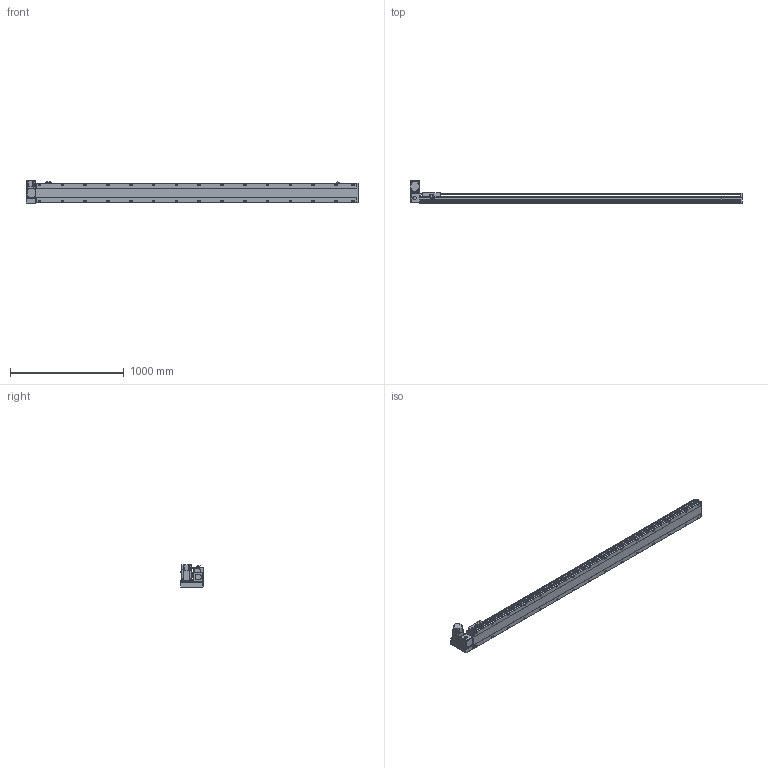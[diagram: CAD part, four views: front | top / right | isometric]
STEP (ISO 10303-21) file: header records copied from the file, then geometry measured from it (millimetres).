
FILE_DESCRIPTION( ( 'STEP AP214' ), '1' );
FILE_NAME( 'x:/temp/worker_4/temp/exporttempdir_2248_417_7XS1b/format_0/PBS170-P40-S2550-LU-T75-C1-N(0).stp', '2022-06-07T08:17:28', ( 'License CC BY-ND 4.0' ), ( 'CADENAS' ), ' ', 'PARTsolutions', ' ' );
FILE_SCHEMA( ( 'AUTOMOTIVE_DESIGN { 1 0 10303 214 1 1 1 1 }' ) );
Length unit declared in the file: millimetre
Products named in the file (7): PBS170-P40-S2550-LU-T75-C1-N(0); _PBS170-S2550()_body; _PBS170T-LU_motors; _T75-p1; _PBS170_sliser; _PBS170_plant; _PBS170_sensor
Assembly tree (8 placements, depth 2):
  PBS170-P40-S2550-LU-T75-C1-N(0)
    _PBS170-S2550()_body
    _PBS170T-LU_motors
    _T75-p1
    _PBS170_sliser
    _PBS170_plant
    _PBS170_sensor  x3
Bounding box: 2913 x 206 x 197.3 mm (x, y, z)
Volume: 22035219.2 mm3; surface area: 2772426.8 mm2
Topology: 8 solids, 8 shells, 1194 faces, 3155 edges, 2056 vertices
Faces by surface type: plane 729, cylinder 395, cone 60, sphere 8, torus 2
Full cylindrical faces by diameter (mm): 3.242 x4, 4 x2, 4.4 x4, 4.5 x6, 4.917 x4, 6 x9, 6.647 x38, 7 x2, 7.5 x4, 8 x8, 8.5 x30, 10 x4, 10.5 x30, 11 x2, 30 x2, 40 x1, 70 x1
Entity records: 44234 total; most frequent: CARTESIAN_POINT 7397, DIRECTION 5790, ORIENTED_EDGE 5448, EDGE_CURVE 2724, AXIS2_PLACEMENT_3D 2047, VERTEX_POINT 1898, LINE 1696, VECTOR 1696
